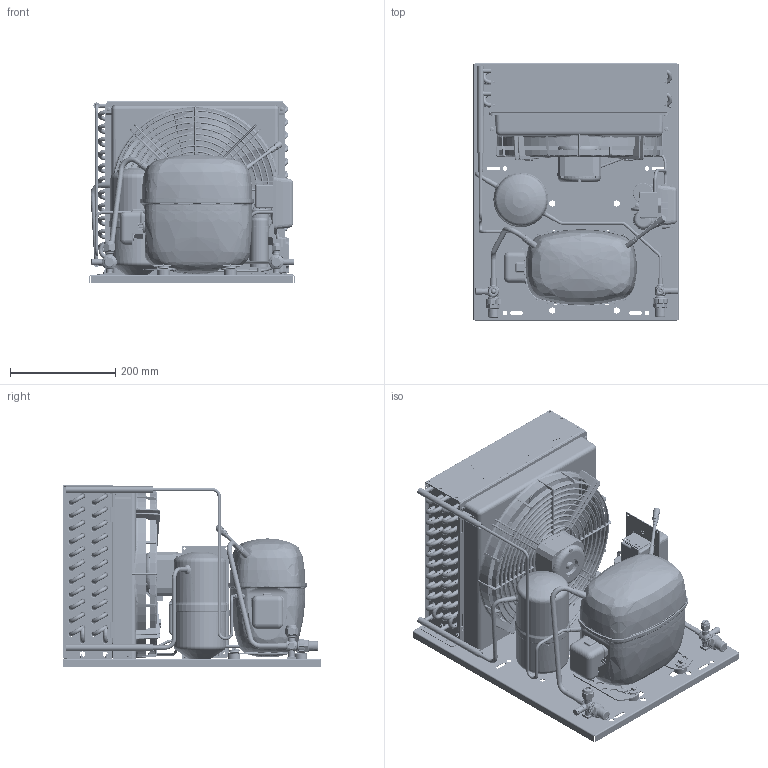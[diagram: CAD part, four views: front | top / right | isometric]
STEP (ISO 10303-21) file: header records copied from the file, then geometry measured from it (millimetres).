
FILE_DESCRIPTION(/* description */ ('Unknown'),/* implementation_level */ '2;1');
FILE_NAME(/* name */ '2298-0040',/* time_stamp */ '2021-12-15T15:42:53+01:00',/* author */ ('Unknown'),/* organization */ ('Unknown'),/* preprocessor_version */ 'ST-DEVELOPER v16.7',/* originating_system */ 'Solid Edge',/* authorisation */ 'Unknown');
FILE_SCHEMA (('AUTOMOTIVE_DESIGN {1 0 10303 214 3 1 1}'));
Products named in the file (69): 2298-0040; 92505124; 1340315f70; r50115706; r50115707; 2990210; r59700361; r50115701; r50095108; r50115604; cg300n; 6062_22M6; sc21cl-a-csr; sc21cl-a-csr_104B1402_0; sc21cl-a-csr_104B0321_0; sc21cl-a-csr_104B0488_0; sc21cl-a-csr_117-3617_0; sc21cl-a-csr_103N0510_0; sc21cl-a-csr_104B0077_ASM_0; sc21cl-a-csr_104B0605_0; sc21cl-a-csr_104B0572_0; sc21cl-a-csr_104B0505_0; sc21cl-a-csr_103N2009_0; a300-19; a300-19_costruzione_oa_0; a300-19_costruzione_oa_1; a300-19_costruzione_oa_2; a300-19_costruzione_oa_3; a300-19_costruzione_oa_4; 84fm8x12xxxteff00; 6072_23m10; sc18cl-a-csr_Large_el; sc18cl-a-csr_TRM_SRF; sc18cl-a-csr_TRM_SRF_0; sc18cl-a-csr_TRM_SRF_1; sc18cl-a-csr_TRM_SRF_2; sc18cl-a-csr_TRM_SRF_3; sc18cl-a-csr_TRM_SRF_4; sc18cl-a-csr_TRM_SRF_5; sc18cl_a_csr_cavo_01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
Assembly tree (138 placements, depth 4):
  2298-0040
    92505124
    1340315f70
      r50115706
      r50115707
      2990210  x24
      r59700361  x24
      r50115701
      r50095108
      r50115604  x2
    cg300n
    6062_22M6
    sc21cl-a-csr
      sc21cl-a-csr_104B1402_0
      sc21cl-a-csr_104B0321_0  x2
      sc21cl-a-csr_104B0488_0
      sc21cl-a-csr_117-3617_0
      sc21cl-a-csr_103N0510_0
      sc21cl-a-csr_104B0077_ASM_0
        sc21cl-a-csr_104B0605_0
        sc21cl-a-csr_104B0572_0
        sc21cl-a-csr_104B0505_0
      sc21cl-a-csr_103N2009_0
    a300-19
      a300-19_costruzione_oa_0
      a300-19_costruzione_oa_1
      a300-19_costruzione_oa_2
      a300-19_costruzione_oa_3
      a300-19_costruzione_oa_4
    84fm8x12xxxteff00  x2
    6072_23m10
    sc18cl-a-csr_Large_el
      sc18cl-a-csr_TRM_SRF
      sc18cl-a-csr_TRM_SRF_0
      sc18cl-a-csr_TRM_SRF_1
      sc18cl-a-csr_TRM_SRF_2
      sc18cl-a-csr_TRM_SRF_3
      sc18cl-a-csr_TRM_SRF_4
      sc18cl-a-csr_TRM_SRF_5
      sc18cl_a_csr_cavo_01
      sc18cl_a_csr_cavo_02
    84DM8X6.9XXESRF00
    100_200vs00
    84a4.2x9.5xtbcf01  x7
    sc18cl-a-csr_piedino  x4
    84RM10X21XXPIAF00  x4
    84v1.8x35xxcopf00  x4
    7210-0003  x2
    8392_A  x2
    7560_2
    7010_22
    7030_3m10
    7560_3
    99510255
      8351_2
      99510255_Tubo
      8392_A
    84t4.8x8xxxtcca00_oa_5
    84t4.8x8xxxtcca00_oa_6
    84t4.8x8xxxtcca00_oa_7
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Bounding box: 390 x 490 x 345.32 mm (x, y, z)
Volume: 9832877.7 mm3; surface area: 3730071.1 mm2
Topology: 132 solids, 139 shells, 10057 faces, 25437 edges, 16223 vertices
Faces by surface type: plane 5220, cylinder 1980, bspline 1256, torus 798, cone 756, sphere 47
Full cylindrical faces by diameter (mm): 0.5 x1, 1 x3, 1.2 x4, 1.8 x20, 2.2 x4, 2.31 x6, 2.7 x4, 3 x7, 3.2 x6, 3.242 x4, 3.3 x2, 3.4 x4, 3.5 x15, 3.6 x6, 3.66 x4, 3.7 x4, 3.85 x2, 3.9 x2, 4 x36, 4.2 x17, 4.3 x1, 4.4 x4, 4.5 x17, 4.6 x6, 4.7 x4, 4.95 x1, 5 x15, 5.1 x2, 5.2 x1, 5.4 x2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
Entity records: 360607 total; most frequent: CARTESIAN_POINT 134411, ORIENTED_EDGE 43086, DIRECTION 32188, EDGE_CURVE 21543, VERTEX_POINT 14414, AXIS2_PLACEMENT_3D 12133, FACE_BOUND 11709, EDGE_LOOP 11707
